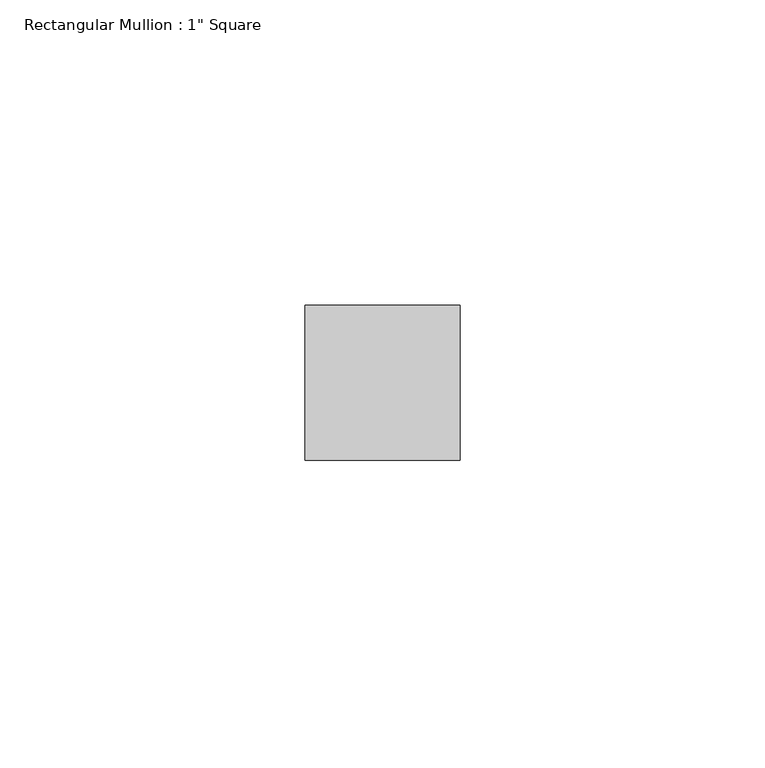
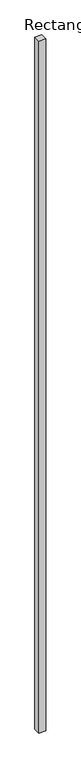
"""IFC4 building model written with IfcOpenShell, lengths in millimetres: member geometry."""

from ifc_helpers import new_model, si_unit, frame, origin, place, context, project, spatial, polyline, outline, extrude, source, transform, mapped, element, save


def member_4b421d57(model_context):
    return source(origin(), model_context, "Body", "SweptSolid", [
        extrude(outline(polyline([(12.7, 12.7), (12.7, -12.7), (-12.7, -12.7), (-12.7, 12.7), (12.7, 12.7)])), frame((0.0, 0.0, -2667.8804539), z_axis=(0.0, 0.0, 1.0), x_axis=(1.0, 0.0, 0.0)), (0.0, 0.0, 1.0), 2667.8804539),
    ])


if __name__ == "__main__":
    model = new_model("IFC4")
    model_context = context("Model", 3, world=origin())
    ifc_project = project(units=[si_unit("LENGTHUNIT", "METRE", prefix="MILLI")], contexts=[model_context])
    site = spatial("IfcSite", under=ifc_project)
    building = spatial("IfcBuilding", under=site)
    placement = place(None, origin())
    member_shape = member_4b421d57(model_context)
    element("IfcMember", 1, ObjectType="Rectangular Mullion : 1\" Square", at=placement, inside=building, context=model_context, shape_type="MappedRepresentation", body=[
        mapped(member_shape, transform((0.0, 0.0, 0.0), x_axis=(1.0, 0.0, 0.0), y_axis=(0.0, 1.0, 0.0), z_axis=(0.0, 0.0, 1.0))),
    ])
    save(model, "model.ifc")
